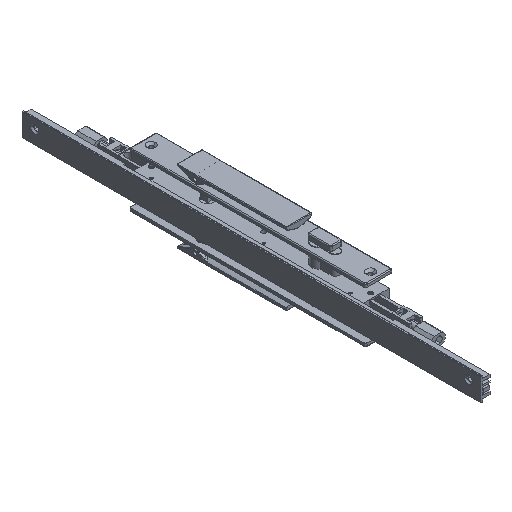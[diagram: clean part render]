
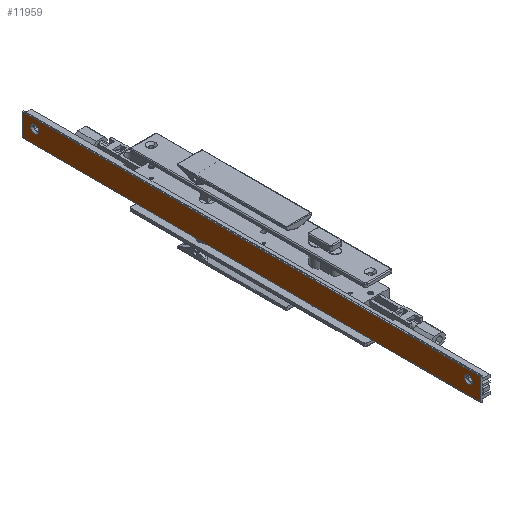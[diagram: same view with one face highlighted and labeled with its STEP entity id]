
A CAD part, isometric view. The second image highlights one B-rep face of the part: STEP entity #11959.
In plain terms, the highlighted planar face has unit normal (-1, 0, 0) as drawn and (0, 1, 0) by its records, which use the part's own axes.
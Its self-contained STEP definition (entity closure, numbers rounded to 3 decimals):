
#814 = EDGE_LOOP ( 'NONE', ( #6876, #31811, #21860, #29633 ) ) ;
#2190 = DIRECTION ( 'NONE',  ( 0., 0., 1. ) ) ;
#2490 = VERTEX_POINT ( 'NONE', #15252 ) ;
#2580 = DIRECTION ( 'NONE',  ( -1., 0., 0. ) ) ;
#3509 = DIRECTION ( 'NONE',  ( 1., 0., 0. ) ) ;
#3594 = DIRECTION ( 'NONE',  ( 0., 1., 0. ) ) ;
#4609 = CARTESIAN_POINT ( 'NONE',  ( 11.8, 12.4, 15. ) ) ;
#4663 = VECTOR ( 'NONE', #7638, 1000. ) ;
#4870 = CARTESIAN_POINT ( 'NONE',  ( 11.8, 12.4, 529. ) ) ;
#5099 = VERTEX_POINT ( 'NONE', #28637 ) ;
#5534 = VERTEX_POINT ( 'NONE', #31778 ) ;
#5759 = CIRCLE ( 'NONE', #12796, 4.89 ) ;
#5832 = ORIENTED_EDGE ( 'NONE', *, *, #32182, .F. ) ;
#6817 = EDGE_CURVE ( 'NONE', #20678, #19887, #30728, .T. ) ;
#6876 = ORIENTED_EDGE ( 'NONE', *, *, #9463, .T. ) ;
#7465 = CARTESIAN_POINT ( 'NONE',  ( -4.4, 12.4, 0. ) ) ;
#7616 = CIRCLE ( 'NONE', #28232, 4.889 ) ;
#7638 = DIRECTION ( 'NONE',  ( 0., 0., 1. ) ) ;
#7718 = CARTESIAN_POINT ( 'NONE',  ( 22., 12.4, 0. ) ) ;
#7915 = DIRECTION ( 'NONE',  ( 0., 0., 1. ) ) ;
#8164 = CARTESIAN_POINT ( 'NONE',  ( -4.4, 12.4, 0. ) ) ;
#9181 = DIRECTION ( 'NONE',  ( 0., 0., 1. ) ) ;
#9463 = EDGE_CURVE ( 'NONE', #5534, #20678, #32060, .T. ) ;
#10412 = LINE ( 'NONE', #7718, #26134 ) ;
#10546 = CARTESIAN_POINT ( 'NONE',  ( 20.8, 12.4, 544. ) ) ;
#11959 = ADVANCED_FACE ( 'NONE', ( #26940, #11978, #13841 ), #32004, .F. ) ;
#11978 = FACE_BOUND ( 'NONE', #27386, .T. ) ;
#12796 = AXIS2_PLACEMENT_3D ( 'NONE', #4609, #25323, #20196 ) ;
#12967 = CARTESIAN_POINT ( 'NONE',  ( 11.8, 12.4, 19.89 ) ) ;
#13067 = EDGE_CURVE ( 'NONE', #5534, #23720, #10412, .T. ) ;
#13841 = FACE_OUTER_BOUND ( 'NONE', #814, .T. ) ;
#14364 = EDGE_LOOP ( 'NONE', ( #31131, #5832 ) ) ;
#14413 = CARTESIAN_POINT ( 'NONE',  ( 20.8, 12.4, 0. ) ) ;
#14739 = CARTESIAN_POINT ( 'NONE',  ( 11.8, 12.4, 529. ) ) ;
#15252 = CARTESIAN_POINT ( 'NONE',  ( 11.8, 12.4, 533.889 ) ) ;
#15375 = DIRECTION ( 'NONE',  ( 0., 1., 0. ) ) ;
#19049 = VECTOR ( 'NONE', #2580, 1000. ) ;
#19072 = AXIS2_PLACEMENT_3D ( 'NONE', #32416, #3594, #9181 ) ;
#19103 = CARTESIAN_POINT ( 'NONE',  ( 20.8, 12.4, 544. ) ) ;
#19162 = DIRECTION ( 'NONE',  ( -1., 0., 0. ) ) ;
#19887 = VERTEX_POINT ( 'NONE', #32073 ) ;
#20196 = DIRECTION ( 'NONE',  ( 0., 0., 1. ) ) ;
#20238 = VERTEX_POINT ( 'NONE', #12967 ) ;
#20678 = VERTEX_POINT ( 'NONE', #8164 ) ;
#20862 = EDGE_CURVE ( 'NONE', #2490, #26615, #7616, .T. ) ;
#21228 = ORIENTED_EDGE ( 'NONE', *, *, #31416, .F. ) ;
#21233 = CIRCLE ( 'NONE', #19072, 4.89 ) ;
#21860 = ORIENTED_EDGE ( 'NONE', *, *, #32071, .F. ) ;
#22435 = CARTESIAN_POINT ( 'NONE',  ( 22., 12.4, 544. ) ) ;
#22733 = ORIENTED_EDGE ( 'NONE', *, *, #20862, .F. ) ;
#22823 = AXIS2_PLACEMENT_3D ( 'NONE', #19103, #29821, #3509 ) ;
#23720 = VERTEX_POINT ( 'NONE', #22435 ) ;
#23747 = EDGE_CURVE ( 'NONE', #20238, #5099, #5759, .T. ) ;
#23878 = AXIS2_PLACEMENT_3D ( 'NONE', #4870, #15375, #7915 ) ;
#25101 = DIRECTION ( 'NONE',  ( 0., 1., 0. ) ) ;
#25323 = DIRECTION ( 'NONE',  ( 0., 1., 0. ) ) ;
#26134 = VECTOR ( 'NONE', #31129, 1000. ) ;
#26615 = VERTEX_POINT ( 'NONE', #30963 ) ;
#26940 = FACE_BOUND ( 'NONE', #14364, .T. ) ;
#27386 = EDGE_LOOP ( 'NONE', ( #22733, #21228 ) ) ;
#28232 = AXIS2_PLACEMENT_3D ( 'NONE', #14739, #25101, #2190 ) ;
#28637 = CARTESIAN_POINT ( 'NONE',  ( 11.8, 12.4, 10.111 ) ) ;
#29633 = ORIENTED_EDGE ( 'NONE', *, *, #13067, .F. ) ;
#29821 = DIRECTION ( 'NONE',  ( 0., -1., 0. ) ) ;
#30385 = VECTOR ( 'NONE', #19162, 1000. ) ;
#30728 = LINE ( 'NONE', #7465, #4663 ) ;
#30963 = CARTESIAN_POINT ( 'NONE',  ( 11.8, 12.4, 524.111 ) ) ;
#31129 = DIRECTION ( 'NONE',  ( 0., 0., 1. ) ) ;
#31131 = ORIENTED_EDGE ( 'NONE', *, *, #23747, .F. ) ;
#31416 = EDGE_CURVE ( 'NONE', #26615, #2490, #32033, .T. ) ;
#31778 = CARTESIAN_POINT ( 'NONE',  ( 22., 12.4, 0. ) ) ;
#31811 = ORIENTED_EDGE ( 'NONE', *, *, #6817, .T. ) ;
#32004 = PLANE ( 'NONE',  #22823 ) ;
#32033 = CIRCLE ( 'NONE', #23878, 4.889 ) ;
#32060 = LINE ( 'NONE', #14413, #30385 ) ;
#32071 = EDGE_CURVE ( 'NONE', #23720, #19887, #33436, .T. ) ;
#32073 = CARTESIAN_POINT ( 'NONE',  ( -4.4, 12.4, 544. ) ) ;
#32182 = EDGE_CURVE ( 'NONE', #5099, #20238, #21233, .T. ) ;
#32416 = CARTESIAN_POINT ( 'NONE',  ( 11.8, 12.4, 15. ) ) ;
#33436 = LINE ( 'NONE', #10546, #19049 ) ;
